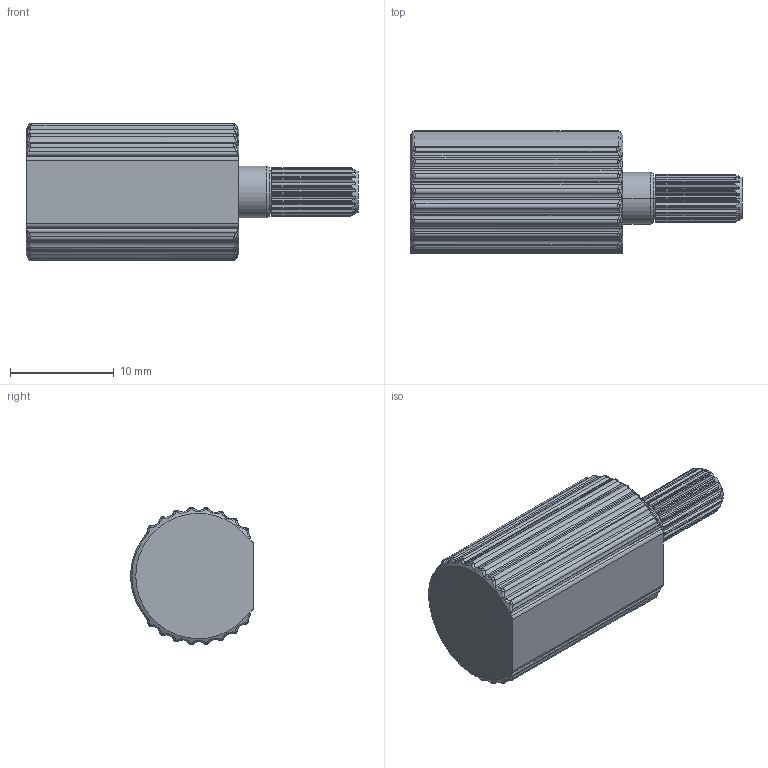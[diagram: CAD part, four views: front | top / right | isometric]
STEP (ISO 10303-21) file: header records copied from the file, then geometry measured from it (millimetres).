
FILE_DESCRIPTION (( 'STEP AP203' ), '1' );
FILE_NAME ('TI-330-01 REV A.STEP', '2024-02-06T20:01:50', ( '' ), ( '' ), 'SwSTEP 2.0', 'SolidWorks 2021', '' );
FILE_SCHEMA (( 'CONFIG_CONTROL_DESIGN' ));
Length unit declared in the file: millimetre
Products named in the file (2): TI-330-01 REV A; JOIN^TI-330 REV A
Assembly tree (1 placements, depth 2):
  TI-330-01 REV A
    JOIN^TI-330 REV A
Bounding box: 32 x 11.82 x 13.24 mm (x, y, z)
Volume: 2761.2 mm3; surface area: 1320.3 mm2
Topology: 1 solids, 1 shells, 367 faces, 951 edges, 589 vertices
Faces by surface type: cylinder 177, bspline 130, plane 46, cone 14
Entity records: 14299 total; most frequent: CARTESIAN_POINT 6328, ORIENTED_EDGE 1902, DIRECTION 1274, EDGE_CURVE 951, VERTEX_POINT 589, AXIS2_PLACEMENT_3D 502, B_SPLINE_CURVE_WITH_KNOTS 420, EDGE_LOOP 370
